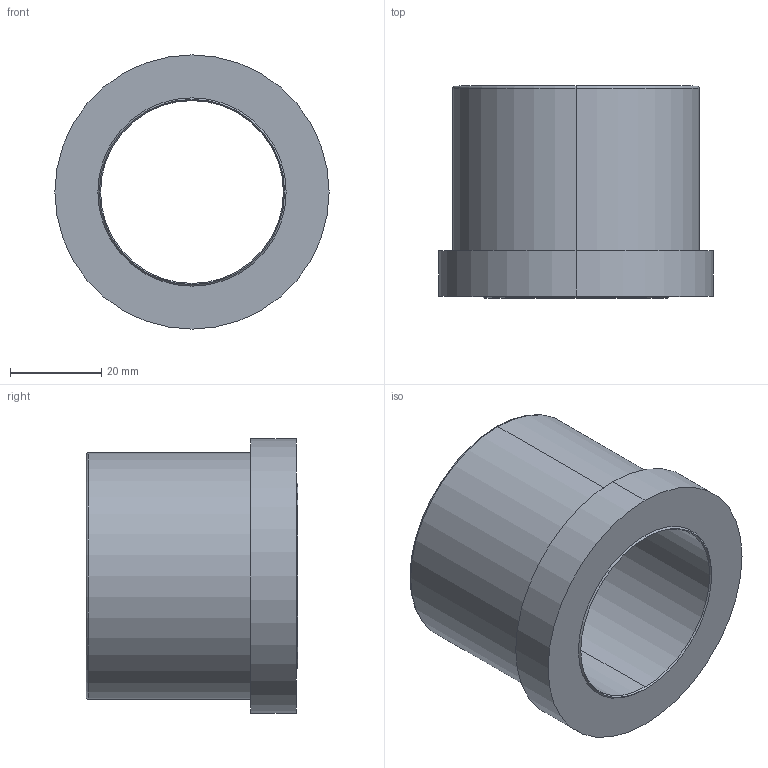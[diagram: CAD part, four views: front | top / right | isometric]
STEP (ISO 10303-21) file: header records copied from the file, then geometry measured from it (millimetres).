
FILE_DESCRIPTION (( 'STEP AP214' ), '1' );
FILE_NAME ('BR11W 40 x 46.STEP', '2020-07-16T11:29:31', ( 'August' ), ( '' ), 'SwSTEP 2.0', 'SolidWorks 2018', '' );
FILE_SCHEMA (( 'AUTOMOTIVE_DESIGN' ));
Length unit declared in the file: millimetre
Products named in the file (1): BR11W 40 x 46
Bounding box: 60 x 46.36 x 60 mm (x, y, z)
Volume: 52905.8 mm3; surface area: 16884.8 mm2
Topology: 1 solids, 1 shells, 17 faces, 34 edges, 20 vertices
Faces by surface type: cone 6, cylinder 6, plane 3, torus 2
Entity records: 484 total; most frequent: DIRECTION 92, CARTESIAN_POINT 72, ORIENTED_EDGE 68, AXIS2_PLACEMENT_3D 40, EDGE_CURVE 34, CIRCLE 22, EDGE_LOOP 20, VERTEX_POINT 20
